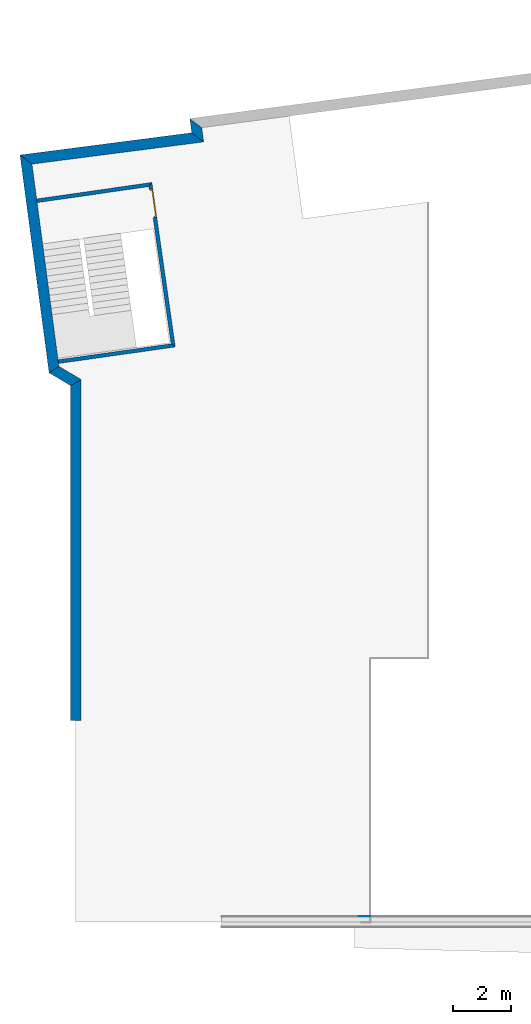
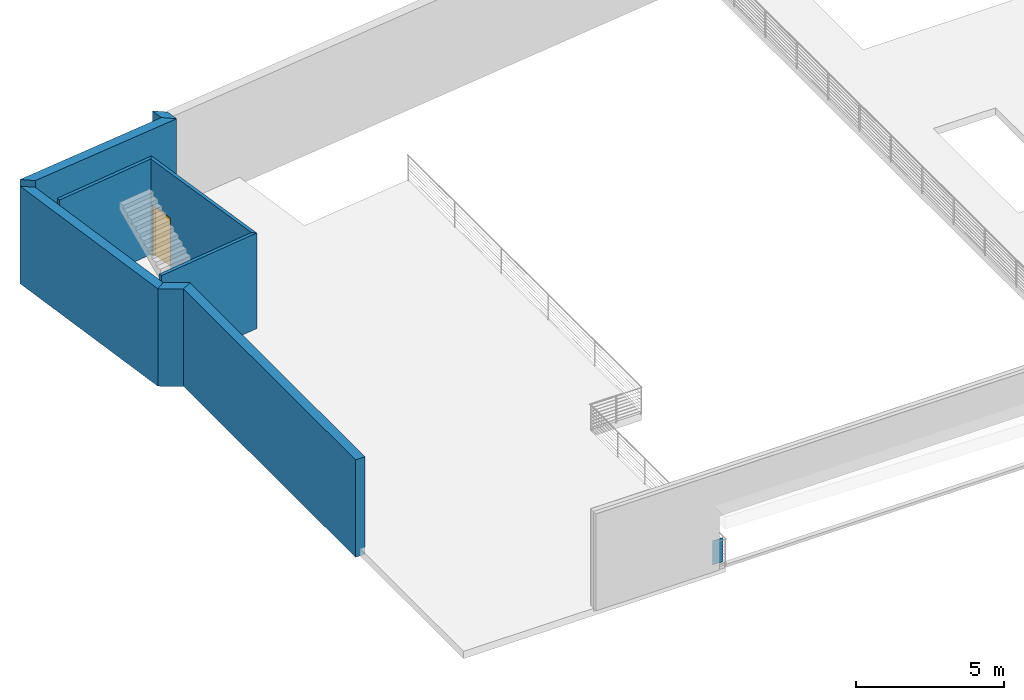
# One storey, part 7 of 17: 9 walls, 1 door, 1 opening.
"""IFC2X3 building model written with IfcOpenShell, lengths in metres."""

from ifc_helpers import new_model, entity, si_unit, converted_unit, money_unit, direction, frame, origin_with_axes, origin_2d_with_axis, place, context, subcontext, project, spatial, polyline, rectangle, outline, extrude, faceted_brep, source, transform, mapped, material, material_list, layer, layer_set, layer_usage, type_object, element, fill, save


model = new_model("IFC2X3")

# Units and contexts
model_context = context("Model", 3, precision=1e-05, world=origin_with_axes(), true_north=direction((0.0, 1.0)))
body_context = subcontext(model_context, "Body", "Model", "MODEL_VIEW")
ifc_project = project(units=[si_unit("LENGTHUNIT", "METRE"), si_unit("AREAUNIT", "SQUARE_METRE"), si_unit("VOLUMEUNIT", "CUBIC_METRE"), converted_unit("PLANEANGLEUNIT", "DEGREE", entity("IfcPlaneAngleMeasure", 0.0174532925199), si_unit("PLANEANGLEUNIT", "RADIAN"), dimensions=[0, 0, 0, 0, 0, 0, 0]), si_unit("SOLIDANGLEUNIT", "STERADIAN"), money_unit("EUR"), converted_unit("TIMEUNIT", "Year", entity("IfcTimeMeasure", 31556926.0), si_unit("TIMEUNIT", "SECOND"), dimensions=[0, 0, 0, 0, 0, 0, 0]), si_unit("MASSUNIT", "GRAM"), si_unit("THERMODYNAMICTEMPERATUREUNIT", "DEGREE_CELSIUS"), si_unit("LUMINOUSINTENSITYUNIT", "LUMEN")], contexts=[model_context])

# Site, building, storey
site_placement = place(None, origin_with_axes())
site = spatial("IfcSite", under=ifc_project, at=site_placement, Name="Undefined", CompositionType="ELEMENT")
building_placement = place(site_placement, origin_with_axes())
building = spatial("IfcBuilding", under=site, at=building_placement, Name="Undefined", CompositionType="ELEMENT")
storey_placement = place(building_placement, frame((0.0, 0.0, 9.425), z_axis=(0.0, 0.0, 1.0), x_axis=(1.0, 0.0, 0.0)))
storey = spatial("IfcBuildingStorey", under=building, at=storey_placement, Name="Mezzannine", CompositionType="ELEMENT", Elevation=9.425)

# Wall
ifc_material_1 = material(Name="Finition int - Enduit pl\x89tre")
ifc_layer_1 = layer(ifc_material_1, 0.015, ventilated="UNKNOWN")
ifc_material_2 = material(Name="Struct. - Parpaing b\x8eton")
ifc_layer_2 = layer(ifc_material_2, 0.1, ventilated="UNKNOWN")
ifc_layer_3 = layer(ifc_material_1, 0.015, ventilated="UNKNOWN")
ifc_layer_set_1 = layer_set([ifc_layer_1, ifc_layer_2, ifc_layer_3], Name="0.0-Cloison: parpaing + pl\x89tre 2 faces copie")
ifc_layer_usage_1 = layer_usage(ifc_layer_set_1, "AXIS2", "POSITIVE", 0.0)
wall_type_1 = type_object("IfcWallType", Name="0.0-Cloison: parpaing + pl\x89tre 2 faces copie 130", PredefinedType="NOTDEFINED")
wall_1_placement = place(storey_placement, frame((-1.8996159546, 24.7471642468, 0.0), z_axis=(0.0, 0.0, 1.0), x_axis=(0.98987205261, 0.141962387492, 0.0)))
element("IfcWallStandardCase", 1, at=wall_1_placement, inside=storey, type_object=wall_type_1, material=ifc_layer_usage_1, Name="Wall_Int_02", context=body_context, shape_type="SweptSolid", body=[
    extrude(outline(polyline([(0.370017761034, 0.0), (4.286162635, 0.0), (4.41629857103, 0.13), (0.371291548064, 0.13), (0.370017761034, 0.0)])), origin_with_axes(), (0.0, 0.0, 1.0), 3.95),
])

# Wall, opening, door
ifc_layer_usage_2 = layer_usage(ifc_layer_set_1, "AXIS2", "POSITIVE", 0.0)
wall_2_placement = place(storey_placement, frame((3.26750137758, 19.7844196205, 0.0), z_axis=(0.0, 0.0, 1.0), x_axis=(-0.140927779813, 0.990019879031, 0.0)))
wall_2 = element("IfcWallStandardCase", 2, at=wall_2_placement, inside=storey, type_object=wall_type_1, material=ifc_layer_usage_2, Name="Wall_Int_02", context=body_context, shape_type="SweptSolid", body=[
    extrude(outline(polyline([(0.0, 0.0), (5.7760216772, 0.0), (5.64588574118, 0.13), (0.13008930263, 0.13), (0.0, 0.0)])), origin_with_axes(), (0.0, 0.0, 1.0), 3.95),
])
opening_placement = place(wall_2_placement, frame((5.05291872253, 0.0, 0.0), z_axis=(0.0, 0.0, 1.0), x_axis=(1.0, 0.0, 0.0)))
opening = element("IfcOpeningElement", 3, at=opening_placement, cuts=wall_2, Name="DOOR_1000", context=body_context, shape_type="SweptSolid", body=[
    extrude(rectangle(XDim=1.0, YDim=2.1, at=origin_2d_with_axis()), frame((0.0, -0.13, 1.05), z_axis=(0.0, 1.0, 0.0), x_axis=(1.0, 0.0, 0.0)), (0.0, 0.0, 1.0), 0.13),
    extrude(rectangle(XDim=1.0, YDim=2.1, at=origin_2d_with_axis()), frame((0.0, 0.13, 1.05), z_axis=(0.0, -1.0, 0.0), x_axis=(1.0, 0.0, 0.0)), (0.0, 0.0, 1.0), 0.13),
])
ifc_material_3 = material(Name="Background Fill-International")
ifc_material_4 = material(Name="Air Space")
ifc_material_list = material_list([ifc_material_3, ifc_material_4])
door_style = type_object("IfcDoorStyle", Name="IFC Porte - Simple battant", ConstructionType="NOTDEFINED", OperationType="SINGLE_SWING_RIGHT", ParameterTakesPrecedence=True, Sizeable=False)
shared_shape = source(origin_with_axes(), body_context, "Body", "Brep", [
    faceted_brep([(-0.5, 0.0, 0.0), (-0.45, 0.0, 0.0), (-0.45, -0.1, 0.0), (-0.5, -0.1, 0.0), (-0.5, 0.0, 2.1), (0.5, 0.0, 2.1), (0.5, 0.0, 0.0), (0.45, 0.0, 0.0), (0.45, 0.0, 2.05), (-0.45, 0.0, 2.05), (-0.45, -0.1, 2.05), (0.45, -0.1, 2.05), (0.45, -0.1, 0.0), (0.5, -0.1, 0.0), (0.5, -0.1, 2.1), (-0.5, -0.1, 2.1)], [[[0, 1, 2, 3]], [[0, 4, 5, 6, 7, 8, 9, 1]], [[1, 9, 10, 2]], [[3, 2, 10, 11, 12, 13, 14, 15]], [[4, 0, 3, 15]], [[5, 4, 15, 14]], [[6, 5, 14, 13]], [[7, 6, 13, 12]], [[8, 7, 12, 11]], [[9, 8, 11, 10]]]),
    faceted_brep([(0.45, 0.0, 0.0), (0.45, 0.0, 2.05), (0.45, -0.04, 2.05), (0.45, -0.04, 0.0), (-0.45, 0.0, 0.0), (-0.45, 0.0, 2.05), (-0.45, -0.04, 2.05), (-0.45, -0.04, 0.0)], [[[0, 1, 2, 3]], [[0, 4, 5, 1]], [[1, 5, 6, 2]], [[3, 2, 6, 7]], [[4, 0, 3, 7]], [[5, 4, 7, 6]]]),
])
door_placement = place(opening_placement, frame((0.5, 0.0, 0.0), z_axis=(0.0, 0.0, 1.0), x_axis=(-1.0, 0.0, 0.0)))
door = element("IfcDoor", 4, at=door_placement, inside=storey, type_object=door_style, material=ifc_material_list, Name="DOOR_1000", ObjectType="DOOR", OverallHeight=2.1, OverallWidth=1.0, context=body_context, shape_type="MappedRepresentation", body=[
    mapped(shared_shape, transform((0.5, 0.0, 0.0))),
])
fill(opening, door)

# Walls
ifc_layer_usage_3 = layer_usage(ifc_layer_set_1, "AXIS2", "POSITIVE", 0.0)
wall_3_placement = place(storey_placement, frame((-1.15387797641, 19.1581406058, 0.0), z_axis=(0.0, 0.0, 1.0), x_axis=(0.990116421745, 0.140247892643, 0.0)))
element("IfcWallStandardCase", 5, at=wall_3_placement, inside=storey, type_object=wall_type_1, material=ifc_layer_usage_3, Name="Wall_Int_02", context=body_context, shape_type="SweptSolid", body=[
    extrude(outline(polyline([(0.370012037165, 0.0), (4.46551461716, 0.0), (4.33542531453, 0.13), (0.371060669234, 0.13), (0.370012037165, 0.0)])), origin_with_axes(), (0.0, 0.0, 1.0), 3.95),
])
ifc_material_5 = material(Name="Finition ext - Cr\x8epis")
ifc_layer_4 = layer(ifc_material_5, 0.015, ventilated="UNKNOWN")
ifc_material_6 = material(Name="Isolation - Fibres de bois")
ifc_layer_5 = layer(ifc_material_6, 0.16, ventilated="UNKNOWN")
ifc_material_7 = material(Name="Struct. - B.A. banch\x8e")
ifc_layer_6 = layer(ifc_material_7, 0.18, ventilated="UNKNOWN")
ifc_layer_7 = layer(ifc_material_1, 0.015, ventilated="UNKNOWN")
ifc_layer_set_2 = layer_set([ifc_layer_4, ifc_layer_5, ifc_layer_6, ifc_layer_7], Name="1.2-Mur ext: rev\x8et ext + isol ext + ma\x8donnerie + enduit")
ifc_layer_usage_4 = layer_usage(ifc_layer_set_2, "AXIS2", "POSITIVE", 0.0)
wall_type_2 = type_object("IfcWallType", Name="1.2-Mur ext: rev\x8et ext + isol ext + ma\x8donnerie + enduit 370", PredefinedType="NOTDEFINED")
wall_4_placement = place(storey_placement, frame((3.83754908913, 27.2289650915, -0.3), z_axis=(0.0, 0.0, 1.0), x_axis=(-0.991731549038, -0.128329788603, 0.0)))
element("IfcWallStandardCase", 6, at=wall_4_placement, inside=storey, type_object=wall_type_2, material=ifc_layer_usage_4, Name="WallEx02", ObjectType="WALL", context=body_context, shape_type="SweptSolid", body=[
    extrude(outline(polyline([(0.0, 0.0), (6.01504925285, 0.0), (5.64358081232, 0.37), (-0.371468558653, 0.37), (0.0, 0.0)])), origin_with_axes(), (0.0, 0.0, 1.0), 4.3),
])
ifc_layer_usage_5 = layer_usage(ifc_layer_set_2, "AXIS2", "POSITIVE", 0.0)
wall_5_placement = place(storey_placement, frame((3.77156587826, 27.7234830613, 0.0), z_axis=(0.0, 0.0, 1.0), x_axis=(0.1322572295, -0.991215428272, 0.0)))
element("IfcWallStandardCase", 7, at=wall_5_placement, inside=storey, type_object=wall_type_2, material=ifc_layer_usage_5, Name="WallEx02", ObjectType="WALL", context=body_context, shape_type="SweptSolid", body=[
    extrude(outline(polyline([(0.0, 0.0), (0.498900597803, 0.0), (0.870369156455, 0.37), (0.370370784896, 0.37), (0.0, 0.0)])), origin_with_axes(), (0.0, 0.0, 1.0), 4.0),
])
ifc_layer_usage_6 = layer_usage(ifc_layer_set_2, "AXIS2", "POSITIVE", 0.0)
wall_6_placement = place(storey_placement, frame((-1.11763836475, 18.886538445, -0.3), z_axis=(0.0, 0.0, 1.0), x_axis=(0.859493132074, -0.51114729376, 0.0)))
element("IfcWallStandardCase", 8, at=wall_6_placement, inside=storey, type_object=wall_type_2, material=ifc_layer_usage_6, Name="WallEx", context=body_context, shape_type="SweptSolid", body=[
    extrude(outline(polyline([(0.0, 0.0), (0.869859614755, 0.0), (1.0803039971, 0.37), (0.179102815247, 0.37), (0.0, 0.0)])), origin_with_axes(), (0.0, 0.0, 1.0), 4.025),
])
ifc_layer_usage_7 = layer_usage(ifc_layer_set_2, "AXIS2", "POSITIVE", 0.0)
wall_7_placement = place(storey_placement, frame((-0.37, 18.441912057, -0.3), z_axis=(0.0, 0.0, 1.0), x_axis=(0.0, -1.0, 0.0)))
element("IfcWallStandardCase", 9, at=wall_7_placement, inside=storey, type_object=wall_type_2, material=ifc_layer_usage_7, Name="WallEx", context=body_context, shape_type="SweptSolid", body=[
    extrude(outline(polyline([(0.0, 0.0), (11.6416724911, 0.0), (11.6416724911, 0.37), (-0.210444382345, 0.37), (0.0, 0.0)])), origin_with_axes(), (0.0, 0.0, 1.0), 4.025),
])
ifc_layer_usage_8 = layer_usage(ifc_layer_set_2, "AXIS2", "POSITIVE", 0.0)
wall_8_placement = place(storey_placement, frame((-2.12776502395, 26.4570550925, -0.3), z_axis=(0.0, 0.0, 1.0), x_axis=(0.132256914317, -0.991215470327, 0.0)))
element("IfcWallStandardCase", 10, at=wall_8_placement, inside=storey, type_object=wall_type_2, material=ifc_layer_usage_8, Name="WallEx", context=body_context, shape_type="SweptSolid", body=[
    extrude(outline(polyline([(0.0, 0.0), (7.63760945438, 0.0), (7.45850663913, 0.37), (0.371468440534, 0.37), (0.0, 0.0)])), origin_with_axes(), (0.0, 0.0, 1.0), 4.025),
])
ifc_material_8 = material(Name="% Ê25 491054888")
ifc_layer_8 = layer(ifc_material_8, 0.005, ventilated="UNKNOWN")
ifc_layer_set_3 = layer_set([ifc_layer_8], Name="% Ê25 491054888 0.005")
ifc_layer_usage_9 = layer_usage(ifc_layer_set_3, "AXIS2", "NEGATIVE", 0.0)
wall_type_3 = type_object("IfcWallType", Name="% Ê25 491054888 5", PredefinedType="NOTDEFINED")
wall_9_placement = place(storey_placement, frame((10.0458624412, 0.0, 0.0), z_axis=(0.0, 0.0, 1.0), x_axis=(-1.0, -6.65323673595e-10, 0.0)))
element("IfcWallStandardCase", 11, at=wall_9_placement, inside=storey, type_object=wall_type_3, material=ifc_layer_usage_9, Name="SW - 016", ObjectType="STAIR", context=body_context, shape_type="SweptSolid", body=[
    extrude(outline(polyline([(0.0, -0.005), (0.395862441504, -0.005), (0.395862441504, 0.0), (0.0, 0.0), (0.0, -0.005)])), origin_with_axes(), (0.0, 0.0, 1.0), 1.0),
])

save(model, "model.ifc")
